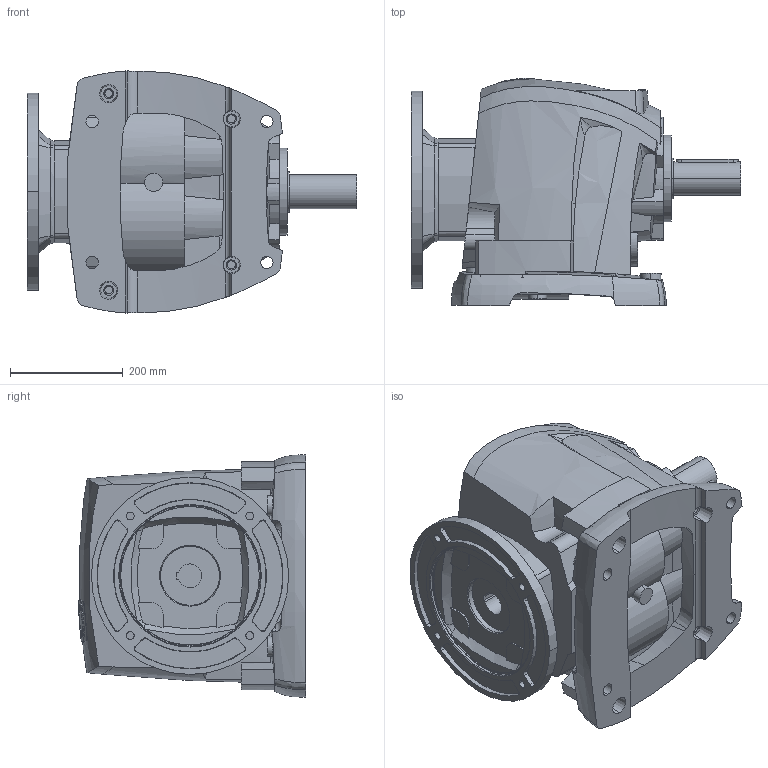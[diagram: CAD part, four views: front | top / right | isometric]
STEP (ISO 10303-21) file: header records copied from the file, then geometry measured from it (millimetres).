
FILE_DESCRIPTION((''),'2;1');
FILE_NAME('R60_SW_PAM160','2013-12-21T',('Luca'),(''),'PRO/ENGINEER BY PARAMETRIC TECHNOLOGY CORPORATION, 2008230','PRO/ENGINEER BY PARAMETRIC TECHNOLOGY CORPORATION, 2008230','');
FILE_SCHEMA(('CONFIG_CONTROL_DESIGN'));
Length unit declared in the file: millimetre
Products named in the file (1): R60_SW_PAM160
Bounding box: 585.5 x 402.94 x 429.76 mm (x, y, z)
Volume: 43544609.9 mm3; surface area: 1259680.2 mm2
Topology: 1 solids, 1 shells, 596 faces, 1643 edges, 1095 vertices
Faces by surface type: plane 218, cylinder 209, bspline 97, cone 42, torus 19, extrusion 11
Entity records: 25301 total; most frequent: CARTESIAN_POINT 11204, ORIENTED_EDGE 3282, DIRECTION 2366, EDGE_CURVE 1641, VERTEX_POINT 1095, AXIS2_PLACEMENT_3D 881, EDGE_LOOP 676, B_SPLINE_CURVE_WITH_KNOTS 666
